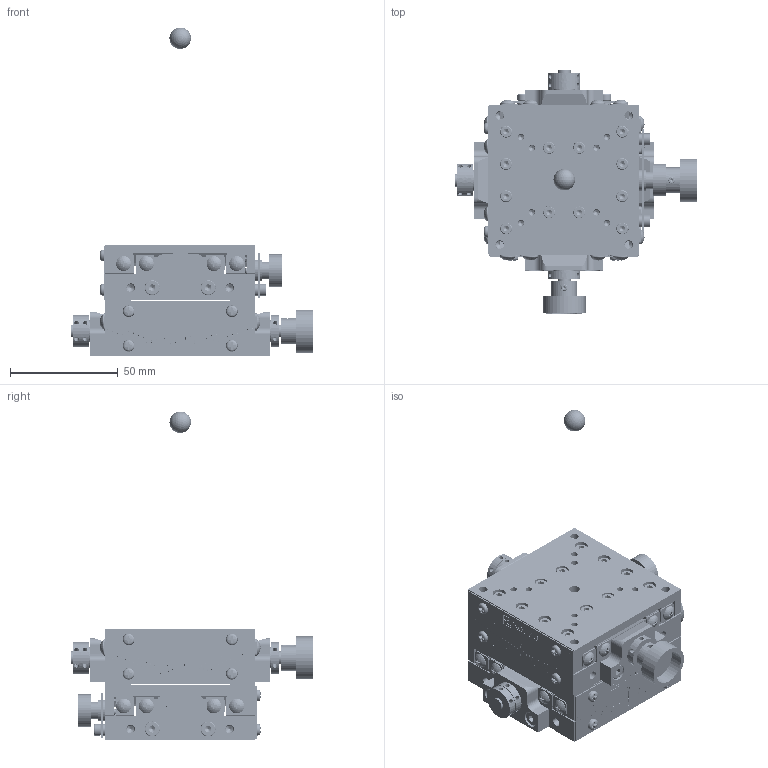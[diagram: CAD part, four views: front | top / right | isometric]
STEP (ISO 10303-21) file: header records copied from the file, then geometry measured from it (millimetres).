
FILE_DESCRIPTION (( 'STEP AP203' ), '1' );
FILE_NAME ('SH07A-RL.STEP', '2015-05-12T03:53:21', ( '' ), ( '' ), 'SwSTEP 2.0', 'SolidWorks 2011', '' );
FILE_SCHEMA (( 'CONFIG_CONTROL_DESIGN' ));
Products named in the file (5): SH07A-RL; upper-table-6; base-25; lower-table-6; rotation-center-18
Assembly tree (4 placements, depth 2):
  SH07A-RL
    lower-table-6
    upper-table-6
    rotation-center-18
    base-25
Bounding box: 113 x 113 x 153 mm (x, y, z)
Volume: 253129.8 mm3; surface area: 104168.1 mm2
Topology: 4 solids, 104 shells, 4845 faces, 11566 edges, 6998 vertices
Faces by surface type: plane 2421, cylinder 1510, cone 740, torus 112, sphere 50, bspline 12
Entity records: 146641 total; most frequent: CARTESIAN_POINT 33232, DIRECTION 24588, ORIENTED_EDGE 22582, EDGE_CURVE 11291, AXIS2_PLACEMENT_3D 9115, VERTEX_POINT 6995, LINE 6358, VECTOR 6358
